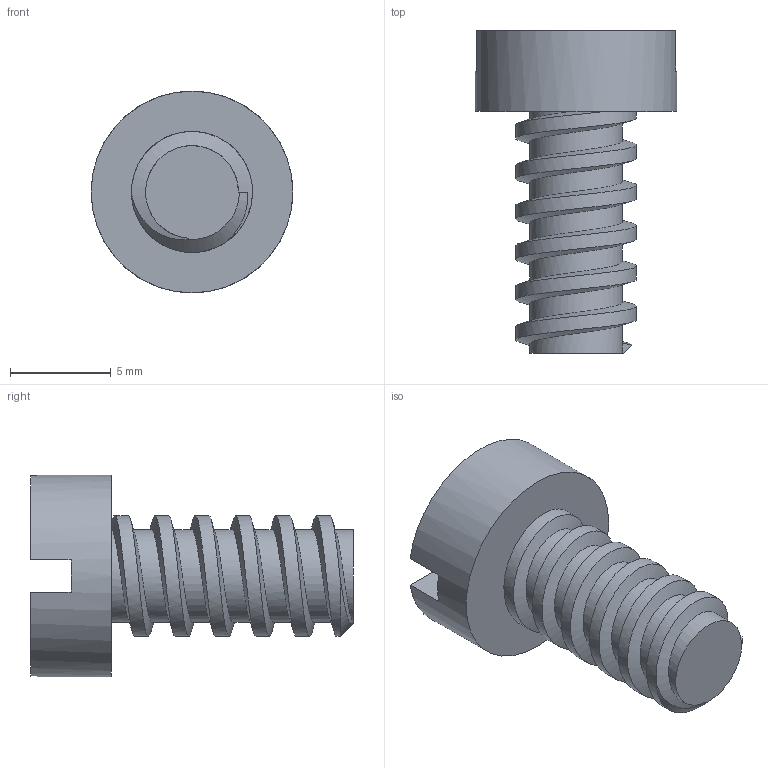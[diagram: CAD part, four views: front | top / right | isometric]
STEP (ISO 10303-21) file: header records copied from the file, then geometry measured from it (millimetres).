
FILE_DESCRIPTION(('Open CASCADE Model'),'2;1');
FILE_NAME('Open CASCADE Shape Model','2026-09-21T16:06:43',('Author'),( 'Open CASCADE'),'Open CASCADE STEP processor 7.9','Open CASCADE 7.9' ,'Unknown');
FILE_SCHEMA(('AUTOMOTIVE_DESIGN { 1 0 10303 214 1 1 1 1 }'));
Length unit declared in the file: millimetre
Products named in the file (1): Open CASCADE STEP translator 7.9 5
Bounding box: 10 x 16 x 10 mm (x, y, z)
Volume: 539 mm3; surface area: 613.5 mm2
Topology: 1 solids, 1 shells, 21 faces, 52 edges, 34 vertices
Faces by surface type: plane 9, cylinder 8, bspline 3, cone 1
Full cylindrical faces by diameter (mm): 4.6 x5, 10 x1
Entity records: 4324 total; most frequent: CARTESIAN_POINT 3373, DIRECTION 138, ORIENTED_EDGE 104, PCURVE 104, DEFINITIONAL_REPRESENTATION 104, LINE 76, VECTOR 76, B_SPLINE_CURVE_WITH_KNOTS 62
